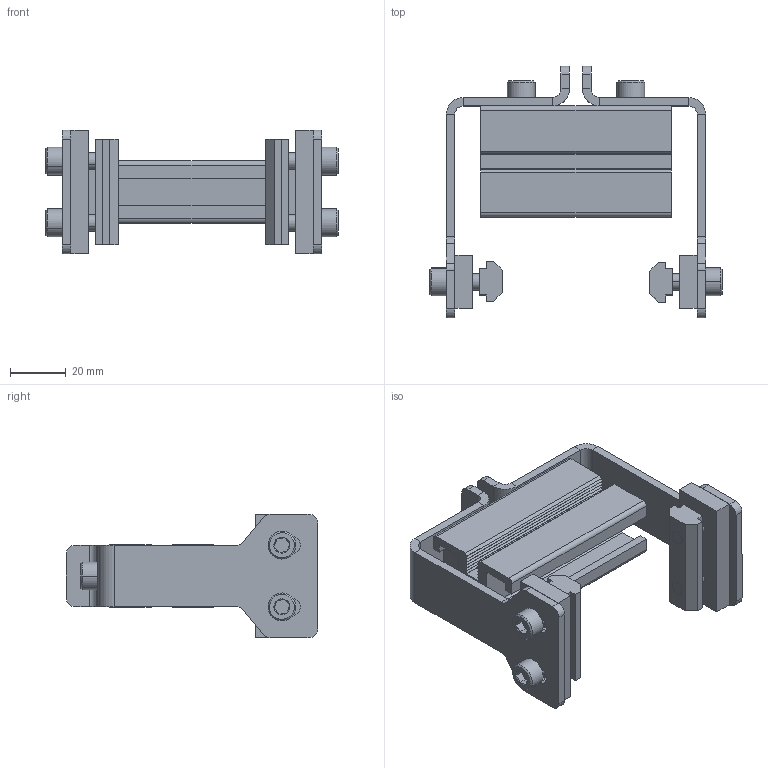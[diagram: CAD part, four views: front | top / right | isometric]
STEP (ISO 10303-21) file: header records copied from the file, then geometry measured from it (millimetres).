
FILE_DESCRIPTION (( 'STEP AP203' ), '1' );
FILE_NAME ('207137-03.STEP', '2019-04-10T16:58:43', ( '' ), ( '' ), 'SwSTEP 2.0', 'SolidWorks 2017', '' );
FILE_SCHEMA (( 'CONFIG_CONTROL_DESIGN' ));
Length unit declared in the file: inch
Products named in the file (8): 207137-03; 639971M_CAE; 207135-WW_207135-03; 202444; 9206XXM_920614M; 9206XXM_920620M; 200626M; 207134
Assembly tree (15 placements, depth 2):
  207137-03
    207134  x2
    207135-WW_207135-03
    202444  x2
    200626M  x2
    639971M_CAE  x2
    9206XXM_920614M  x2
    9206XXM_920620M  x4
Bounding box: 105.37 x 90.68 x 44.45 mm (x, y, z)
Volume: 72706.1 mm3; surface area: 48382.5 mm2
Topology: 15 solids, 15 shells, 432 faces, 1042 edges, 652 vertices
Faces by surface type: plane 258, cylinder 108, cone 66
Entity records: 8328 total; most frequent: CARTESIAN_POINT 1374, DIRECTION 1230, ORIENTED_EDGE 1212, EDGE_CURVE 606, LINE 462, VECTOR 462, VERTEX_POINT 388, AXIS2_PLACEMENT_3D 384
